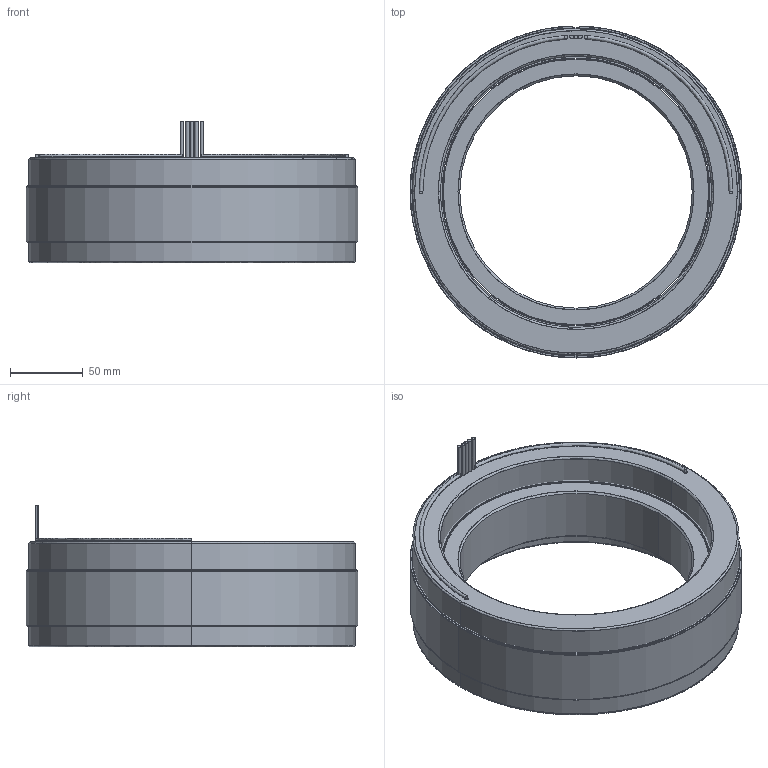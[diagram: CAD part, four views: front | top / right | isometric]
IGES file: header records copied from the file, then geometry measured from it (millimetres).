
Start section: SolidWorks IGES file using analytic representation for surfaces
Global section: file name: Z:\STANDARD STATOR ROTOR SETS\NEW DIRECT DRIVE MOTOR\9 OD 36S 32P\6100346-03.IGS; native system: SolidWorks 2016; preprocessor: SolidWorks 2016; author: eng; date: 191023.163519; units: millimetre
Bounding box: 228.6 x 228.58 x 97.79 mm (x, y, z)
Surface area: 363694 mm2 (no closed solid volume)
Topology: 0 solids, 0 shells, 98 faces, 2664 edges, 2664 vertices
Faces by surface type: revolution 56, bspline 42
